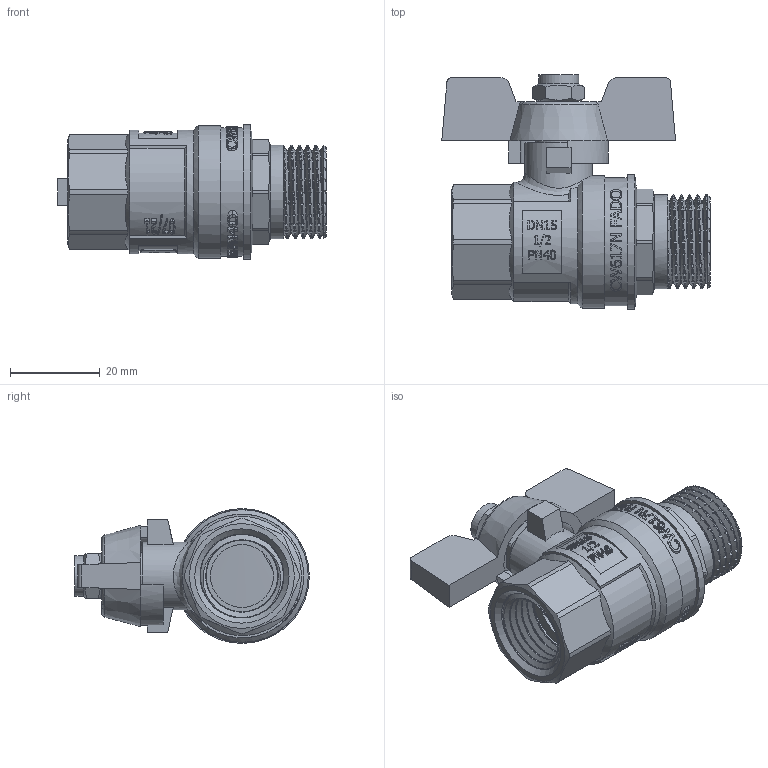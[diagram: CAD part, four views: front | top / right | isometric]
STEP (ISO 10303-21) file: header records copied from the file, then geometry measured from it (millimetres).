
FILE_DESCRIPTION(/* description */ (''),/* implementation_level */ '2;1');
FILE_NAME(/* name */ 'C:\Users\Doom\Desktop\Фадотех\KN11 08.11.2021\KN11 08.11.2021.stp',/* time_stamp */ '2021-12-05T11:21:55+02:00',/* author */ ('Doom'),/* organization */ (''),/* preprocessor_version */ 'ST-DEVELOPER v18',/* originating_system */ 'Autodesk Inventor 2020',/* authorisation */ '');
FILE_SCHEMA (('AUTOMOTIVE_DESIGN { 1 0 10303 214 3 1 1 }'));
Products named in the file (8): KN11 08.11.2021; 20642011; KA2 08.11.2021; 22208286; KA1 08.11.2021; KA2 08.11.2021_1; 5010501048005; DIN 985 - M6
Assembly tree (7 placements, depth 2):
  KN11 08.11.2021
    20642011
    KA2 08.11.2021
    22208286
    KA1 08.11.2021
    KA2 08.11.2021_1
    5010501048005
    DIN 985 - M6
Bounding box: 59.7 x 52.2 x 30 mm (x, y, z)
Volume: 24460.9 mm3; surface area: 26385.9 mm2
Topology: 14 solids, 14 shells, 1727 faces, 4864 edges, 3238 vertices
Faces by surface type: plane 758, bspline 602, cylinder 297, cone 60, torus 9, sphere 1
Full cylindrical faces by diameter (mm): 4.917 x1, 8 x1, 8.1 x1, 8.2 x1, 8.9 x1, 8.946 x3, 10 x1, 10.3 x1, 10.8 x2, 12.5 x2, 14 x2, 15 x2, 15.5 x1, 15.94 x6, 17.5 x1, 18.21 x2, 18.63 x2, 20 x1, 20.9 x1, 21 x1, 21.276 x5, 22.776 x2, 23.5 x2, 25 x6, 28.5 x1, 29.5 x1, 30 x1
Entity records: 98445 total; most frequent: CARTESIAN_POINT 59592, ORIENTED_EDGE 9714, DIRECTION 5400, EDGE_CURVE 4857, VERTEX_POINT 3235, B_SPLINE_CURVE_WITH_KNOTS 2379, AXIS2_PLACEMENT_3D 1916, EDGE_LOOP 1826
